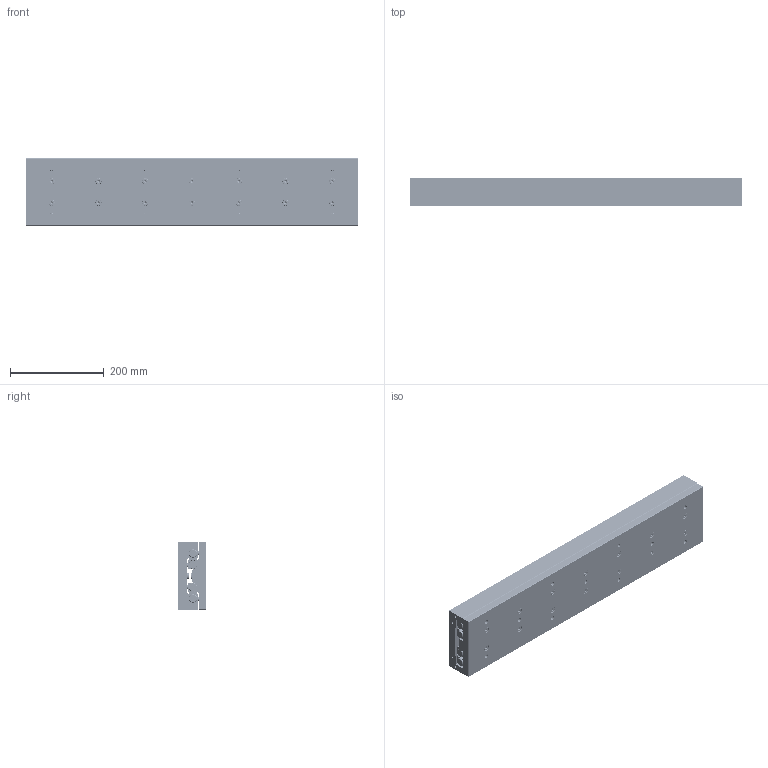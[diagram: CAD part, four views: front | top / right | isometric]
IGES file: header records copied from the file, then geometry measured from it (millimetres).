
Start section: SolidWorks IGES file using analytic representation for surfaces
Global section: file name: C:\Documents and Settings\IanO.IANOHOME\My Documents\Wix and Auto CAD Work\CAD Models\Parametric Models\Auto Models\L1020\L1020_IGES\L1020.145-710.igs; native system: SolidWorks 2009; preprocessor: SolidWorks 2009; author: IanO; date: 110922.163323; units: millimetre
Bounding box: 710 x 60 x 145 mm (x, y, z)
Surface area: 956280.5 mm2 (no closed solid volume)
Topology: 0 solids, 0 shells, 2438 faces, 36428 edges, 36358 vertices
Faces by surface type: bspline 1536, revolution 902
